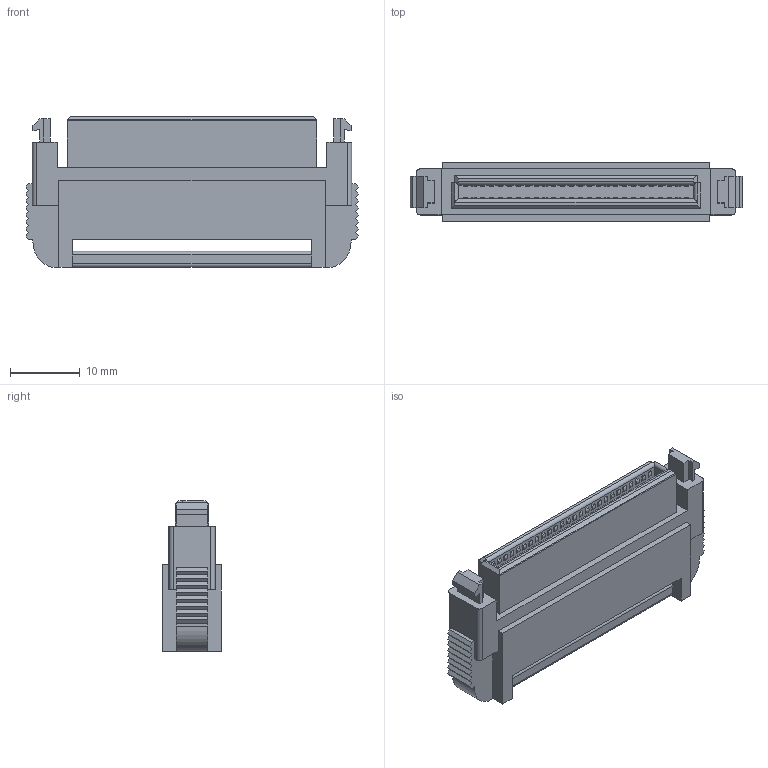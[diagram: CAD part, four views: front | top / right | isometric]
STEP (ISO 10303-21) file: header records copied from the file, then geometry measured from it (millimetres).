
FILE_DESCRIPTION(('Creo Elements/Direct Modeling STEP Export'),'2;1');
FILE_NAME('P3D800_8822-052-171X-F.stp','2023-03-28T10:18:59',(''),(''),'Creo Elements/Direct Modeling STEP processor for AP214 (Solid Model)','Creo Elements/Direct Modeling 20.4A 18-Oct-2021 (C) Parametric Technology GmbH','');
FILE_SCHEMA(('AUTOMOTIVE_DESIGN { 1 0 10303 214 1 1 1 1 }'));
Length unit declared in the file: millimetre
Products named in the file (2): 8822-052-171-F
Assembly tree (1 placements, depth 2):
  8822-052-171-F
    8822-052-171-F
Bounding box: 47.55 x 8.4 x 21.6 mm (x, y, z)
Volume: 5171.4 mm3; surface area: 4009.1 mm2
Topology: 1 solids, 1 shells, 766 faces, 2020 edges, 1310 vertices
Faces by surface type: plane 593, cylinder 173
Entity records: 22046 total; most frequent: ORIENTED_EDGE 4040, CARTESIAN_POINT 3787, DIRECTION 3482, EDGE_CURVE 2020, VECTOR 1472, LINE 1472, VERTEX_POINT 1310, AXIS2_PLACEMENT_3D 1005
